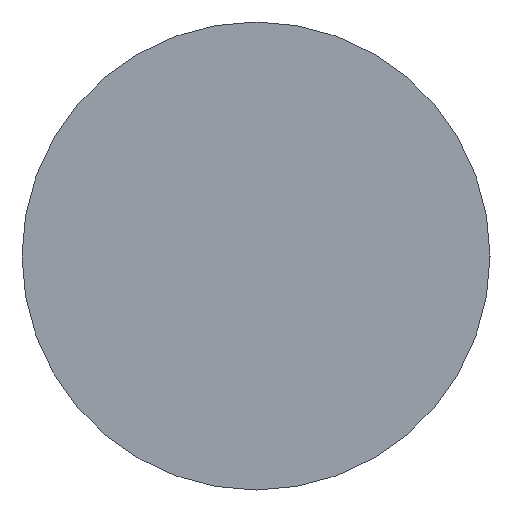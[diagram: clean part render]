
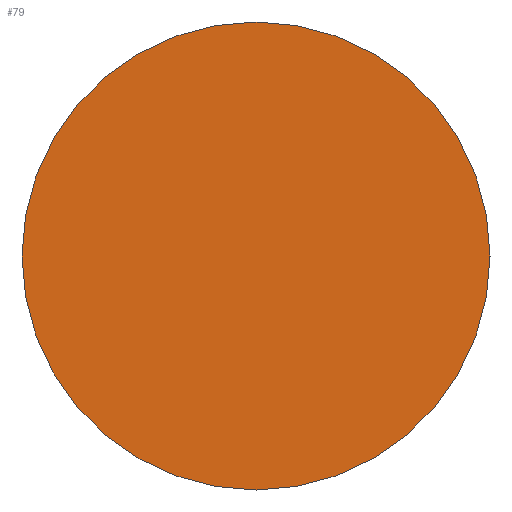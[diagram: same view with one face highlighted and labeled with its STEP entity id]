
A CAD part, left-side view. The second image highlights one B-rep face of the part: STEP entity #79.
In plain terms, the highlighted planar face has unit normal (-1, 0, 0).
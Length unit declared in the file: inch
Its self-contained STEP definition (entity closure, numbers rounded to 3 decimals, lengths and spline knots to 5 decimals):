
#3 = AXIS2_PLACEMENT_3D ( 'NONE', #463, #339, #458 ) ;
#19 = CIRCLE ( 'NONE', #3, 0.25 ) ;
#41 = ORIENTED_EDGE ( 'NONE', *, *, #98, .T. ) ;
#75 = CARTESIAN_POINT ( 'NONE',  ( -6., 0., 0. ) ) ;
#79 = ADVANCED_FACE ( 'NONE', ( #263 ), #454, .F. ) ;
#98 = EDGE_CURVE ( 'NONE', #239, #376, #159, .T. ) ;
#103 = EDGE_LOOP ( 'NONE', ( #106, #41 ) ) ;
#106 = ORIENTED_EDGE ( 'NONE', *, *, #311, .T. ) ;
#128 = DIRECTION ( 'NONE',  ( 0., 0., 1. ) ) ;
#143 = DIRECTION ( 'NONE',  ( 0., 0., -1. ) ) ;
#159 = CIRCLE ( 'NONE', #448, 0.25 ) ;
#239 = VERTEX_POINT ( 'NONE', #406 ) ;
#263 = FACE_OUTER_BOUND ( 'NONE', #103, .T. ) ;
#311 = EDGE_CURVE ( 'NONE', #376, #239, #19, .T. ) ;
#334 = CARTESIAN_POINT ( 'NONE',  ( -6., 0.25, 0. ) ) ;
#339 = DIRECTION ( 'NONE',  ( -1., 0., 0. ) ) ;
#376 = VERTEX_POINT ( 'NONE', #470 ) ;
#377 = AXIS2_PLACEMENT_3D ( 'NONE', #334, #500, #143 ) ;
#406 = CARTESIAN_POINT ( 'NONE',  ( -6., 0., -0.25 ) ) ;
#439 = DIRECTION ( 'NONE',  ( -1., 0., 0. ) ) ;
#448 = AXIS2_PLACEMENT_3D ( 'NONE', #75, #439, #128 ) ;
#454 = PLANE ( 'NONE',  #377 ) ;
#458 = DIRECTION ( 'NONE',  ( 0., 0., 1. ) ) ;
#463 = CARTESIAN_POINT ( 'NONE',  ( -6., 0., 0. ) ) ;
#470 = CARTESIAN_POINT ( 'NONE',  ( -6., 0., 0.25 ) ) ;
#500 = DIRECTION ( 'NONE',  ( 1., 0., 0. ) ) ;
